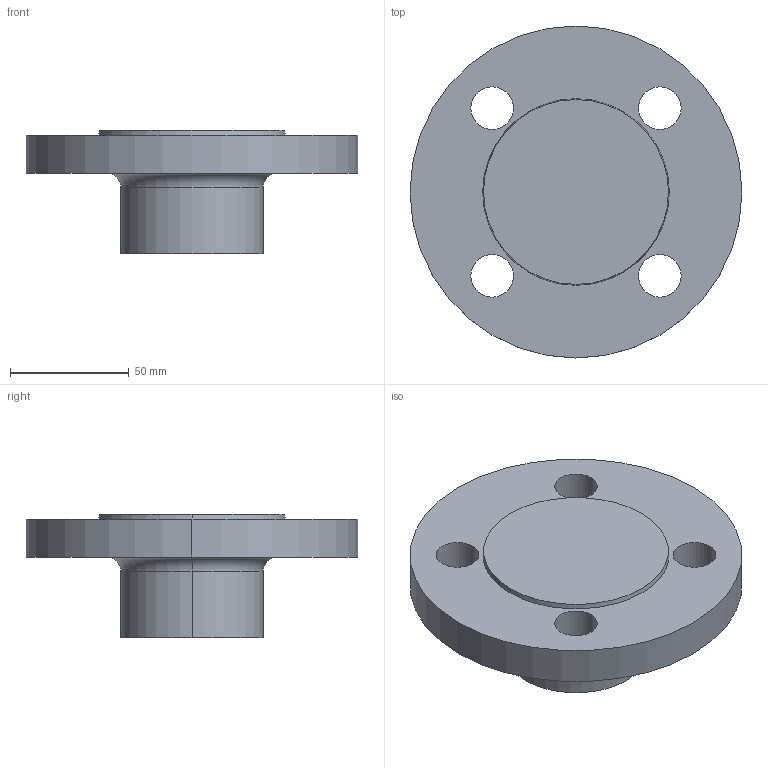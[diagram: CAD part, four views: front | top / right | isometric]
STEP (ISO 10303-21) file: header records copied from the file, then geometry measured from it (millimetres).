
FILE_DESCRIPTION (( 'STEP AP214' ), '1' );
FILE_NAME ('PN40 DN32 Type 21(i) - Type B Face.STEP', '2018-12-29T23:49:17', ( '' ), ( '' ), 'SwSTEP 2.0', 'SolidWorks 2019', '' );
FILE_SCHEMA (( 'AUTOMOTIVE_DESIGN' ));
Length unit declared in the file: millimetre
Products named in the file (1): PN40 DN32 Type 21(i) - Type B Face
Bounding box: 140 x 140 x 52 mm (x, y, z)
Volume: 337312.3 mm3; surface area: 45760.7 mm2
Topology: 1 solids, 1 shells, 20 faces, 46 edges, 30 vertices
Faces by surface type: cylinder 12, plane 4, torus 2, cone 2
Entity records: 636 total; most frequent: DIRECTION 120, CARTESIAN_POINT 97, ORIENTED_EDGE 92, AXIS2_PLACEMENT_3D 53, EDGE_CURVE 46, CIRCLE 32, EDGE_LOOP 30, VERTEX_POINT 30
